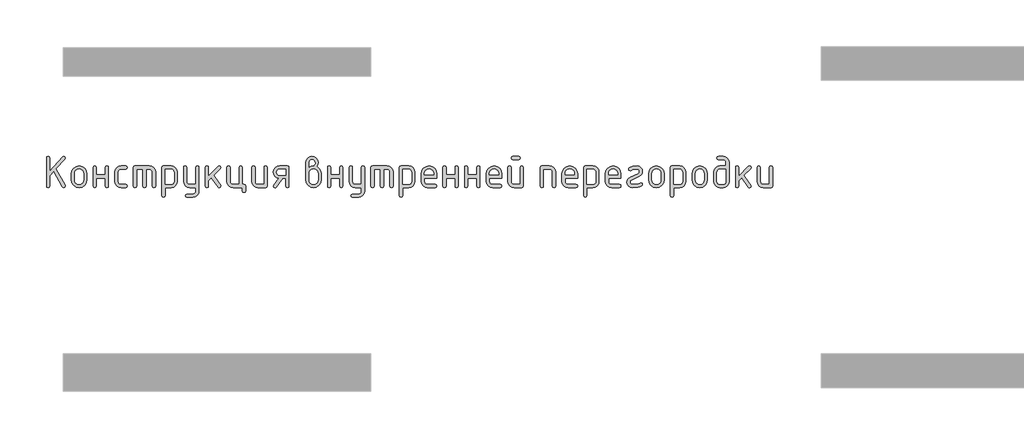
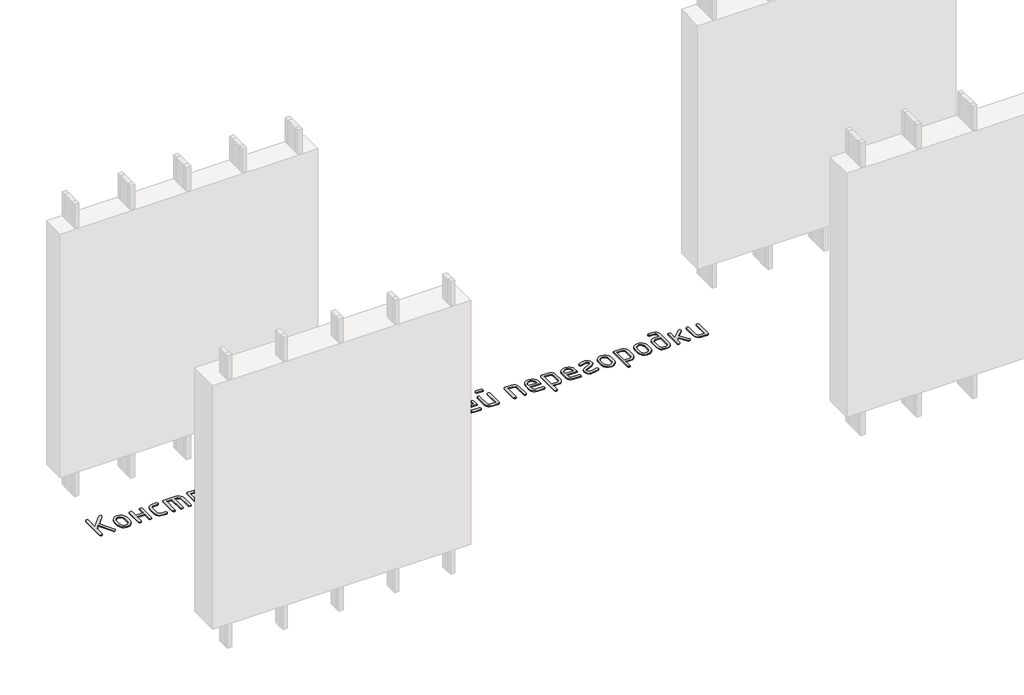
# One storey, part 42 of 42: 1 proxy.
"""IFC4 building model written with IfcOpenShell, lengths in millimetres."""

from ifc_helpers import new_model, si_unit, origin, origin_with_axes, place, context, project, spatial, polyline, outline, extrude, element, save

model = new_model("IFC4")

# Units and contexts
model_context = context("Model", 3, world=origin())
ifc_project = project(units=[si_unit("LENGTHUNIT", "METRE", prefix="MILLI")], contexts=[model_context])

# Site, building, storey
site = spatial("IfcSite", under=ifc_project)
building = spatial("IfcBuilding", under=site)
storey = spatial("IfcBuildingStorey", under=building, Name="Этаж 01", Elevation=0.0)

# Proxy
placement = place(None, origin())
element("IfcBuildingElementProxy", 1, Name="300 мм GOST Common", ObjectType="300 мм GOST Common", at=placement, inside=storey, context=model_context, shape_type="SweptSolid", body=[
    extrude(outline(polyline([(1969.9036155, -29064.8902367), (1930.6823287, -29108.3080398), (1930.6823287, -29208.9437284), (1926.8086214, -29220.3832703), (1915.1874994, -29224.196451), (1903.5663774, -29220.3832703), (1899.69267, -29208.9437284), (1899.69267, -28934.7175298), (1903.5663774, -28923.2779878), (1915.1874994, -28919.4648071), (1926.8086214, -28923.2779878), (1930.6823287, -28934.7175298), (1930.6823287, -29062.7919786), (2055.5286881, -28924.549048), (2067.0691079, -28919.4648071), (2078.3875965, -28923.2779878), (2082.1604261, -28934.7175298), (2078.044612, -28945.1281182), (1991.5318148, -29040.9216726), (2080.1428702, -29201.3577182), (2082.1604261, -29208.9437284), (2077.4796964, -29219.4753702), (2067.0691079, -29224.196451), (2059.0795865, -29222.1788951), (2053.5111322, -29216.1262274), (1969.9036155, -29064.8902367)])), origin_with_axes(), (0.0, 0.0, 1.0), 10.0),
    extrude(outline(polyline([(2142.4449965, -29148.5784557), (2142.4449965, -29088.0517785), (2147.9226608, -29058.9787979), (2164.3556536, -29034.5461959), (2188.5562367, -29017.9618864), (2217.3366717, -29012.4337832), (2246.4197401, -29017.9013597), (2270.5597965, -29034.3040892), (2286.8112093, -29058.6761646), (2292.2283469, -29088.0517785), (2292.2283469, -29148.5784557), (2286.7506826, -29177.6514363), (2270.3176897, -29202.0840383), (2246.1171067, -29218.6683478), (2217.3366717, -29224.196451), (2188.5562367, -29218.6683478), (2164.3556536, -29202.0840383), (2147.9226608, -29177.6514363), (2142.4449965, -29148.5784557)]), holes=[polyline([(2261.2386882, -29147.6907311), (2261.2386882, -29087.0833517), (2258.0206865, -29069.6516687), (2248.3666815, -29054.9638617), (2234.1731757, -29044.97696), (2217.3366717, -29041.6479927), (2200.5001677, -29044.97696), (2186.3066619, -29054.9638617), (2176.6526569, -29069.6516687), (2173.4346552, -29087.0833517), (2173.4346552, -29147.6907311), (2176.6223935, -29165.2838186), (2186.1856085, -29179.9716256), (2200.348851, -29189.8980006), (2217.3366717, -29193.2067923), (2234.1731757, -29189.8778251), (2248.3666815, -29179.8909233), (2258.0206865, -29165.1829408), (2261.2386882, -29147.6907311)])]), origin_with_axes(), (0.0, 0.0, 1.0), 10.0),
    extrude(outline(polyline([(2385.197323, -29131.2274749), (2385.197323, -29208.7016216), (2381.3236156, -29220.3227437), (2369.7024936, -29224.196451), (2358.0813716, -29220.4236215), (2354.2076643, -29209.1051328), (2354.2076643, -29027.5251014), (2358.0813716, -29016.2066128), (2369.7024936, -29012.4337832), (2381.3236156, -29016.0855594), (2385.197323, -29027.040888), (2385.197323, -29100.2378162), (2473.001356, -29100.2378162), (2473.001356, -29027.040888), (2476.8750633, -29016.0855594), (2488.4961853, -29012.4337832), (2500.1173073, -29016.2066128), (2503.9910147, -29027.5251014), (2503.9910147, -29209.1051328), (2500.1173073, -29220.4236215), (2488.4961853, -29224.196451), (2476.8750633, -29220.3227437), (2473.001356, -29208.7016216), (2473.001356, -29131.2274749), (2385.197323, -29131.2274749)])), origin_with_axes(), (0.0, 0.0, 1.0), 10.0),
    extrude(outline(polyline([(2596.9599907, -29073.3639715), (2596.9599907, -29163.2662627), (2599.1994778, -29174.6755413), (2605.917939, -29184.3698974), (2615.7232607, -29190.9975686), (2627.2233293, -29193.2067923), (2672.7393905, -29193.2067923), (2684.0578792, -29197.0804996), (2687.8307087, -29208.7016216), (2684.0578792, -29220.3227437), (2672.7393905, -29224.196451), (2627.2233293, -29224.196451), (2603.6784519, -29219.8183547), (2583.8862285, -29206.6840657), (2570.4493062, -29187.1743001), (2565.970332, -29163.6697739), (2565.970332, -29072.9604604), (2570.4493062, -29049.4559341), (2583.8862285, -29029.9461685), (2603.6784519, -29016.8118795), (2627.2233293, -29012.4337832), (2672.7393905, -29012.4337832), (2684.0578792, -29016.3074906), (2687.8307087, -29027.9286126), (2684.0578792, -29039.5497346), (2672.7393905, -29043.4234419), (2627.2233293, -29043.4234419), (2615.571944, -29045.6124901), (2605.7968856, -29052.1796345), (2599.1692145, -29061.8538151), (2596.9599907, -29073.3639715)])), origin_with_axes(), (0.0, 0.0, 1.0), 10.0),
    extrude(outline(polyline([(2762.2381705, -29012.4337832), (2901.6916346, -29012.4337832), (2925.5794965, -29016.8421429), (2945.5936511, -29030.0672218), (2959.1516268, -29049.6072508), (2963.670952, -29072.9604604), (2963.670952, -29209.1051328), (2959.7972447, -29220.4236215), (2948.1761227, -29224.196451), (2936.5550007, -29220.4236215), (2932.6812933, -29209.1051328), (2932.6812933, -29073.525376), (2930.451894, -29061.7932884), (2923.7636962, -29052.0989323), (2913.7868823, -29045.5923145), (2901.6916346, -29043.4234419), (2870.7019759, -29043.4234419), (2870.7019759, -29209.1051328), (2866.8282686, -29220.4236215), (2855.2071466, -29224.196451), (2843.5860246, -29220.4236215), (2839.7123172, -29209.1051328), (2839.7123172, -29043.4234419), (2777.7329998, -29043.4234419), (2777.7329998, -29209.1051328), (2773.8592925, -29220.4236215), (2762.2381705, -29224.196451), (2750.6170485, -29220.4236215), (2746.7433411, -29209.1051328), (2746.7433411, -29027.5251014), (2750.6170485, -29016.2066128), (2762.2381705, -29012.4337832)])), origin_with_axes(), (0.0, 0.0, 1.0), 10.0),
    extrude(outline(polyline([(3025.6502694, -29027.6865059), (3029.4029234, -29016.2469639), (3040.6608854, -29012.4337832), (3115.5525605, -29012.4337832), (3138.774629, -29016.8118795), (3158.082639, -29029.9461685), (3171.0958746, -29049.4559341), (3175.4336198, -29072.9604604), (3175.4336198, -29163.6697739), (3171.1261379, -29187.0229835), (3158.2036924, -29206.5630124), (3139.0469991, -29219.7880913), (3116.036774, -29224.196451), (3056.6399281, -29224.196451), (3056.6399281, -29301.6705977), (3052.7662208, -29313.2917198), (3041.1450988, -29317.1654271), (3029.5239768, -29313.3522464), (3025.6502694, -29301.9127045), (3025.6502694, -29027.6865059)]), holes=[polyline([(3056.6399281, -29043.4234419), (3056.6399281, -29193.2067923), (3115.1490494, -29193.2067923), (3126.4271869, -29191.0177441), (3135.8895241, -29184.4505997), (3142.3053518, -29174.7764191), (3144.4439611, -29163.2662627), (3144.4439611, -29073.3639715), (3142.3356152, -29061.7024984), (3136.0105774, -29052.0585812), (3126.5785036, -29045.5822267), (3115.1490494, -29043.4234419), (3056.6399281, -29043.4234419)])]), origin_with_axes(), (0.0, 0.0, 1.0), 10.0),
    extrude(outline(polyline([(3356.2066289, -29255.6703231), (3356.2066289, -29224.196451), (3296.809783, -29224.196451), (3273.7995579, -29219.7880913), (3254.6428646, -29206.5630124), (3241.7204191, -29187.0229835), (3237.4129372, -29163.6697739), (3237.4129372, -29027.5251014), (3241.2866445, -29016.2066128), (3252.9077665, -29012.4337832), (3264.5288886, -29016.2066128), (3268.4025959, -29027.5251014), (3268.4025959, -29163.1048582), (3270.5613807, -29174.5343124), (3277.0377352, -29184.2891952), (3286.5202479, -29190.977393), (3297.6975076, -29193.2067923), (3356.2066289, -29193.2067923), (3356.2066289, -29027.5251014), (3360.0803362, -29016.2066128), (3371.7014582, -29012.4337832), (3383.3225802, -29016.2469639), (3387.1962876, -29027.6865059), (3387.1962876, -29256.2352388), (3382.9493324, -29279.6893262), (3370.2084669, -29299.370584), (3351.2737047, -29312.7167163), (3328.4450596, -29317.1654271), (3268.4025959, -29317.1654271), (3257.0235806, -29313.2917198), (3253.2305755, -29301.6705977), (3257.830603, -29290.8564981), (3268.4025959, -29286.1757684), (3326.9117171, -29286.1757684), (3338.3411713, -29284.0068958), (3347.7732452, -29277.500278), (3354.098283, -29267.7050441), (3356.2066289, -29255.6703231)])), origin_with_axes(), (0.0, 0.0, 1.0), 10.0),
    extrude(outline(polyline([(3480.1652637, -29111.8589382), (3575.3939024, -29016.791704), (3586.208002, -29012.4337832), (3597.5870173, -29016.2066128), (3601.3800224, -29027.5251014), (3596.779995, -29038.0970943), (3530.2006501, -29104.595737), (3598.3940397, -29200.3892913), (3601.3800224, -29209.2665373), (3597.5870173, -29220.4639726), (3586.208002, -29224.196451), (3579.0658541, -29222.5824063), (3573.6184532, -29217.7402721), (3508.4110463, -29126.143234), (3480.1652637, -29154.3890167), (3480.1652637, -29209.0244306), (3476.2915563, -29220.4034459), (3464.6704343, -29224.196451), (3453.0493123, -29220.4236215), (3449.175605, -29209.1051328), (3449.175605, -29027.5251014), (3453.0493123, -29016.2066128), (3464.6704343, -29012.4337832), (3476.2915563, -29016.2066128), (3480.1652637, -29027.5251014), (3480.1652637, -29111.8589382)])), origin_with_axes(), (0.0, 0.0, 1.0), 10.0),
    extrude(outline(polyline([(3826.2164525, -29193.2067923), (3837.8375745, -29197.0804996), (3841.7112818, -29208.7016216), (3841.7112818, -29255.1861097), (3837.8375745, -29266.8072317), (3826.2164525, -29270.680939), (3814.5953305, -29266.8072317), (3810.7216231, -29255.1861097), (3810.7216231, -29224.196451), (3720.819332, -29224.196451), (3697.5972635, -29219.7880913), (3678.2892535, -29206.5630124), (3665.2760179, -29187.0229835), (3660.9382727, -29163.6697739), (3660.9382727, -29027.5251014), (3664.8119801, -29016.2066128), (3676.4331021, -29012.4337832), (3688.0542241, -29016.2066128), (3691.9279314, -29027.5251014), (3691.9279314, -29163.1048582), (3694.0867163, -29174.5343124), (3700.5630707, -29184.2891952), (3710.0455835, -29190.977393), (3721.2228432, -29193.2067923), (3779.7319644, -29193.2067923), (3779.7319644, -29027.5251014), (3783.6056718, -29016.2066128), (3795.2267938, -29012.4337832), (3806.8479158, -29016.2066128), (3810.7216231, -29027.5251014), (3810.7216231, -29193.2067923), (3826.2164525, -29193.2067923)])), origin_with_axes(), (0.0, 0.0, 1.0), 10.0),
    extrude(outline(polyline([(4053.4739496, -29027.5251014), (4053.4739496, -29209.1051328), (4049.7212956, -29220.4236215), (4038.4633337, -29224.196451), (3963.5716585, -29224.196451), (3940.34959, -29219.8183547), (3921.04158, -29206.6840657), (3908.0283444, -29187.1743001), (3903.6905992, -29163.6697739), (3903.6905992, -29027.5251014), (3907.5643066, -29016.2066128), (3919.1854286, -29012.4337832), (3930.8065506, -29016.2066128), (3934.6802579, -29027.5251014), (3934.6802579, -29163.1048582), (3936.8390427, -29174.5343124), (3943.3153972, -29184.2891952), (3952.7979099, -29190.977393), (3963.9751697, -29193.2067923), (4022.4842909, -29193.2067923), (4022.4842909, -29027.5251014), (4026.3579982, -29016.2066128), (4037.9791203, -29012.4337832), (4049.6002423, -29016.2066128), (4053.4739496, -29027.5251014)])), origin_with_axes(), (0.0, 0.0, 1.0), 10.0),
    extrude(outline(polyline([(4167.0219959, -29133.0029241), (4145.6459911, -29126.6980619), (4128.3252737, -29113.2712273), (4116.8554684, -29094.6996252), (4113.0321999, -29072.9604604), (4117.4304718, -29049.4559341), (4130.6252874, -29029.9461685), (4150.1754041, -29016.8118795), (4173.6395793, -29012.4337832), (4249.741788, -29012.4337832), (4261.36291, -29016.2066128), (4265.2366174, -29027.5251014), (4265.2366174, -29209.1051328), (4261.36291, -29220.4236215), (4249.741788, -29224.196451), (4238.120666, -29220.4034459), (4234.2469587, -29209.0244306), (4234.2469587, -29133.325733), (4203.4994067, -29133.325733), (4140.390258, -29217.9823788), (4135.0437348, -29222.642933), (4128.2042203, -29224.196451), (4116.825205, -29220.4236215), (4113.0321999, -29209.1051328), (4116.0181827, -29199.9050779), (4167.0219959, -29133.0029241)]), holes=[polyline([(4143.3762407, -29073.7674827), (4145.6157278, -29085.2675514), (4152.3341889, -29095.0728731), (4162.1395106, -29101.7913342), (4173.6395793, -29104.0308213), (4234.2469587, -29104.0308213), (4234.2469587, -29043.4234419), (4173.6395793, -29043.4234419), (4161.9881939, -29045.6326656), (4152.2131356, -29052.2603368), (4145.5854644, -29062.0555707), (4143.3762407, -29073.7674827)])]), origin_with_axes(), (0.0, 0.0, 1.0), 10.0),
    extrude(outline(polyline([(4535.3470019, -29017.1145129), (4553.8782529, -29028.503616), (4568.1524609, -29045.0778378), (4577.2617258, -29065.1626068), (4580.2981475, -29087.0833517), (4580.2981475, -29148.01354), (4574.8204832, -29177.4597685), (4558.3874904, -29202.0436872), (4534.1869073, -29218.65826), (4505.4064723, -29224.196451), (4476.4747206, -29218.6279967), (4452.3044009, -29201.9226338), (4435.962198, -29177.3084518), (4430.5147971, -29148.01354), (4430.5147971, -28980.3949955), (4434.8424545, -28956.7895914), (4447.8254268, -28937.1385969), (4467.0022956, -28923.8832546), (4489.9116429, -28919.4648071), (4512.921868, -28923.9135179), (4532.0785614, -28937.2596502), (4545.0010069, -28956.9409081), (4549.3084888, -28980.3949955), (4545.8181171, -29001.1152946), (4535.3470019, -29017.1145129)]), holes=[polyline([(4461.5044558, -29027.2022924), (4479.9852679, -29015.8838038), (4496.8520353, -29012.1109743), (4505.9310368, -29009.467976), (4514.2837183, -29001.5389813), (4520.154806, -28991.673133), (4522.1118352, -28981.7669335), (4519.9328748, -28969.9642314), (4513.3959937, -28960.2194364), (4503.6310231, -28953.6825553), (4491.7677944, -28951.5035949), (4480.116409, -28953.7128186), (4470.3413507, -28960.3404898), (4463.7136795, -28970.1155481), (4461.5044558, -28981.7669335), (4461.5044558, -29027.2022924)]), polyline([(4549.3084888, -29147.6907311), (4549.3084888, -29087.0833517), (4546.1207505, -29069.6516687), (4536.5575355, -29054.9638617), (4522.394293, -29044.97696), (4505.4064723, -29041.6479927), (4488.4186516, -29044.97696), (4474.2554091, -29054.9638617), (4464.6921941, -29069.6516687), (4461.5044558, -29087.0833517), (4461.5044558, -29147.6907311), (4464.6921941, -29165.2838186), (4474.2554091, -29179.9716256), (4488.4186516, -29189.8980006), (4505.4064723, -29193.2067923), (4522.394293, -29189.8778251), (4536.5575355, -29179.8909233), (4546.1207505, -29165.1829408), (4549.3084888, -29147.6907311)])]), origin_with_axes(), (0.0, 0.0, 1.0), 10.0),
    extrude(outline(polyline([(4673.2671236, -29131.2274749), (4673.2671236, -29208.7016216), (4669.3934162, -29220.3227437), (4657.7722942, -29224.196451), (4646.1511722, -29220.4236215), (4642.2774649, -29209.1051328), (4642.2774649, -29027.5251014), (4646.1511722, -29016.2066128), (4657.7722942, -29012.4337832), (4669.3934162, -29016.0855594), (4673.2671236, -29027.040888), (4673.2671236, -29100.2378162), (4761.0711566, -29100.2378162), (4761.0711566, -29027.040888), (4764.9448639, -29016.0855594), (4776.5659859, -29012.4337832), (4788.1871079, -29016.2066128), (4792.0608153, -29027.5251014), (4792.0608153, -29209.1051328), (4788.1871079, -29220.4236215), (4776.5659859, -29224.196451), (4764.9448639, -29220.3227437), (4761.0711566, -29208.7016216), (4761.0711566, -29131.2274749), (4673.2671236, -29131.2274749)])), origin_with_axes(), (0.0, 0.0, 1.0), 10.0),
    extrude(outline(polyline([(4972.8338243, -29255.6703231), (4972.8338243, -29224.196451), (4913.4369785, -29224.196451), (4890.4267534, -29219.7880913), (4871.2700601, -29206.5630124), (4858.3476145, -29187.0229835), (4854.0401327, -29163.6697739), (4854.0401327, -29027.5251014), (4857.91384, -29016.2066128), (4869.534962, -29012.4337832), (4881.156084, -29016.2066128), (4885.0297914, -29027.5251014), (4885.0297914, -29163.1048582), (4887.1885762, -29174.5343124), (4893.6649306, -29184.2891952), (4903.1474434, -29190.977393), (4914.3247031, -29193.2067923), (4972.8338243, -29193.2067923), (4972.8338243, -29027.5251014), (4976.7075317, -29016.2066128), (4988.3286537, -29012.4337832), (4999.9497757, -29016.2469639), (5003.823483, -29027.6865059), (5003.823483, -29256.2352388), (4999.5765279, -29279.6893262), (4986.8356623, -29299.370584), (4967.9009002, -29312.7167163), (4945.0722551, -29317.1654271), (4885.0297914, -29317.1654271), (4873.6507761, -29313.2917198), (4869.857771, -29301.6705977), (4874.4577984, -29290.8564981), (4885.0297914, -29286.1757684), (4943.5389126, -29286.1757684), (4954.9683668, -29284.0068958), (4964.4004407, -29277.500278), (4970.7254784, -29267.7050441), (4972.8338243, -29255.6703231)])), origin_with_axes(), (0.0, 0.0, 1.0), 10.0),
    extrude(outline(polyline([(5081.2976298, -29012.4337832), (5220.7510939, -29012.4337832), (5244.6389558, -29016.8421429), (5264.6531104, -29030.0672218), (5278.2110861, -29049.6072508), (5282.7304113, -29072.9604604), (5282.7304113, -29209.1051328), (5278.856704, -29220.4236215), (5267.235582, -29224.196451), (5255.61446, -29220.4236215), (5251.7407526, -29209.1051328), (5251.7407526, -29073.525376), (5249.5113534, -29061.7932884), (5242.8231555, -29052.0989323), (5232.8463416, -29045.5923145), (5220.7510939, -29043.4234419), (5189.7614352, -29043.4234419), (5189.7614352, -29209.1051328), (5185.8877279, -29220.4236215), (5174.2666059, -29224.196451), (5162.6454839, -29220.4236215), (5158.7717765, -29209.1051328), (5158.7717765, -29043.4234419), (5096.7924591, -29043.4234419), (5096.7924591, -29209.1051328), (5092.9187518, -29220.4236215), (5081.2976298, -29224.196451), (5069.6765078, -29220.4236215), (5065.8028004, -29209.1051328), (5065.8028004, -29027.5251014), (5069.6765078, -29016.2066128), (5081.2976298, -29012.4337832)])), origin_with_axes(), (0.0, 0.0, 1.0), 10.0),
    extrude(outline(polyline([(5344.7097287, -29027.6865059), (5348.4623827, -29016.2469639), (5359.7203447, -29012.4337832), (5434.6120198, -29012.4337832), (5457.8340883, -29016.8118795), (5477.1420983, -29029.9461685), (5490.1553339, -29049.4559341), (5494.4930791, -29072.9604604), (5494.4930791, -29163.6697739), (5490.1855972, -29187.0229835), (5477.2631517, -29206.5630124), (5458.1064584, -29219.7880913), (5435.0962333, -29224.196451), (5375.6993874, -29224.196451), (5375.6993874, -29301.6705977), (5371.8256801, -29313.2917198), (5360.2045581, -29317.1654271), (5348.5834361, -29313.3522464), (5344.7097287, -29301.9127045), (5344.7097287, -29027.6865059)]), holes=[polyline([(5375.6993874, -29043.4234419), (5375.6993874, -29193.2067923), (5434.2085087, -29193.2067923), (5445.4866462, -29191.0177441), (5454.9489834, -29184.4505997), (5461.3648111, -29174.7764191), (5463.5034204, -29163.2662627), (5463.5034204, -29073.3639715), (5461.3950745, -29061.7024984), (5455.0700367, -29052.0585812), (5445.6379629, -29045.5822267), (5434.2085087, -29043.4234419), (5375.6993874, -29043.4234419)])]), origin_with_axes(), (0.0, 0.0, 1.0), 10.0),
    extrude(outline(polyline([(5587.4620552, -29131.2274749), (5587.4620552, -29162.2171336), (5589.7015423, -29174.0097479), (5596.4200034, -29184.0470885), (5606.2253251, -29190.9168663), (5617.7253938, -29193.2067923), (5693.5047936, -29193.2067923), (5704.8838089, -29197.0804996), (5708.676814, -29208.7016216), (5704.8838089, -29220.3227437), (5693.5047936, -29224.196451), (5617.7253938, -29224.196451), (5594.1805164, -29219.8183547), (5574.3882929, -29206.6840657), (5560.9513706, -29187.1743001), (5556.4723965, -29163.6697739), (5556.4723965, -29088.0517785), (5562.0912897, -29058.9787979), (5578.9479693, -29034.5461959), (5603.6731169, -29017.9618864), (5632.8974142, -29012.4337832), (5662.3436426, -29017.8004819), (5686.7661568, -29033.900578), (5703.1991497, -29057.8287911), (5708.676814, -29086.6798405), (5708.676814, -29131.2274749), (5587.4620552, -29131.2274749)]), holes=[polyline([(5632.8974142, -29039.6304368), (5615.4657312, -29042.9594041), (5600.7779242, -29052.9463058), (5590.7910224, -29067.6341128), (5587.4620552, -29085.0657958), (5587.4620552, -29100.2378162), (5678.3327732, -29100.2378162), (5678.3327732, -29085.0657958), (5675.0038059, -29067.6341128), (5665.0169042, -29052.9463058), (5650.3290972, -29042.9594041), (5632.8974142, -29039.6304368)])]), origin_with_axes(), (0.0, 0.0, 1.0), 10.0),
    extrude(outline(polyline([(5799.224723, -29131.2274749), (5799.224723, -29208.7016216), (5795.3510156, -29220.3227437), (5783.7298936, -29224.196451), (5772.1087716, -29220.4236215), (5768.2350643, -29209.1051328), (5768.2350643, -29027.5251014), (5772.1087716, -29016.2066128), (5783.7298936, -29012.4337832), (5795.3510156, -29016.0855594), (5799.224723, -29027.040888), (5799.224723, -29100.2378162), (5887.028756, -29100.2378162), (5887.028756, -29027.040888), (5890.9024633, -29016.0855594), (5902.5235853, -29012.4337832), (5914.1447073, -29016.2066128), (5918.0184147, -29027.5251014), (5918.0184147, -29209.1051328), (5914.1447073, -29220.4236215), (5902.5235853, -29224.196451), (5890.9024633, -29220.3227437), (5887.028756, -29208.7016216), (5887.028756, -29131.2274749), (5799.224723, -29131.2274749)])), origin_with_axes(), (0.0, 0.0, 1.0), 10.0),
    extrude(outline(polyline([(6010.9873908, -29131.2274749), (6010.9873908, -29208.7016216), (6007.1136834, -29220.3227437), (5995.4925614, -29224.196451), (5983.8714394, -29220.4236215), (5979.9977321, -29209.1051328), (5979.9977321, -29027.5251014), (5983.8714394, -29016.2066128), (5995.4925614, -29012.4337832), (6007.1136834, -29016.0855594), (6010.9873908, -29027.040888), (6010.9873908, -29100.2378162), (6098.7914237, -29100.2378162), (6098.7914237, -29027.040888), (6102.6651311, -29016.0855594), (6114.2862531, -29012.4337832), (6125.9073751, -29016.2066128), (6129.7810824, -29027.5251014), (6129.7810824, -29209.1051328), (6125.9073751, -29220.4236215), (6114.2862531, -29224.196451), (6102.6651311, -29220.3227437), (6098.7914237, -29208.7016216), (6098.7914237, -29131.2274749), (6010.9873908, -29131.2274749)])), origin_with_axes(), (0.0, 0.0, 1.0), 10.0),
    extrude(outline(polyline([(6222.7500585, -29131.2274749), (6222.7500585, -29162.2171336), (6224.9895456, -29174.0097479), (6231.7080067, -29184.0470885), (6241.5133284, -29190.9168663), (6253.0133971, -29193.2067923), (6328.7927969, -29193.2067923), (6340.1718122, -29197.0804996), (6343.9648173, -29208.7016216), (6340.1718122, -29220.3227437), (6328.7927969, -29224.196451), (6253.0133971, -29224.196451), (6229.4685197, -29219.8183547), (6209.6762963, -29206.6840657), (6196.2393739, -29187.1743001), (6191.7603998, -29163.6697739), (6191.7603998, -29088.0517785), (6197.379293, -29058.9787979), (6214.2359726, -29034.5461959), (6238.9611202, -29017.9618864), (6268.1854175, -29012.4337832), (6297.6316459, -29017.8004819), (6322.0541602, -29033.900578), (6338.487153, -29057.8287911), (6343.9648173, -29086.6798405), (6343.9648173, -29131.2274749), (6222.7500585, -29131.2274749)]), holes=[polyline([(6268.1854175, -29039.6304368), (6250.7537345, -29042.9594041), (6236.0659275, -29052.9463058), (6226.0790258, -29067.6341128), (6222.7500585, -29085.0657958), (6222.7500585, -29100.2378162), (6313.6207765, -29100.2378162), (6313.6207765, -29085.0657958), (6310.2918092, -29067.6341128), (6300.3049075, -29052.9463058), (6285.6171005, -29042.9594041), (6268.1854175, -29039.6304368)])]), origin_with_axes(), (0.0, 0.0, 1.0), 10.0),
    extrude(outline(polyline([(6507.6289523, -28950.4544658), (6449.2005333, -28950.4544658), (6438.1846781, -28946.5807585), (6434.5127263, -28934.9596365), (6438.1846781, -28923.3385145), (6449.2005333, -28919.4648071), (6507.6289523, -28919.4648071), (6518.6448075, -28923.3385145), (6522.3167593, -28934.9596365), (6518.6448075, -28946.5807585), (6507.6289523, -28950.4544658)])), origin_with_axes(), (0.0, 0.0, 1.0), 10.0),
    extrude(outline(polyline([(6553.306418, -29026.4759723), (6553.306418, -29208.7016216), (6549.553764, -29220.3227437), (6538.2958021, -29224.196451), (6463.4041269, -29224.196451), (6440.1820584, -29219.7174769), (6420.8740484, -29206.2805546), (6407.8608128, -29186.4681556), (6403.5230676, -29162.8627515), (6403.5230676, -29026.4759723), (6407.3967749, -29015.1574837), (6419.017897, -29011.3846542), (6430.639019, -29015.1574837), (6434.5127263, -29026.4759723), (6434.5127263, -29162.8627515), (6436.6715111, -29174.4233468), (6443.1478656, -29184.2488441), (6452.6303783, -29190.9673052), (6463.807638, -29193.2067923), (6522.3167593, -29193.2067923), (6522.3167593, -29026.4759723), (6526.1904666, -29015.1574837), (6537.8115886, -29011.3846542), (6549.4327107, -29015.1574837), (6553.306418, -29026.4759723)])), origin_with_axes(), (0.0, 0.0, 1.0), 10.0),
    extrude(outline(polyline([(6718.5845977, -29209.1051328), (6718.5845977, -29027.5251014), (6722.3372517, -29016.2066128), (6733.5952136, -29012.4337832), (6808.4868888, -29012.4337832), (6831.5576406, -29016.8421429), (6850.895914, -29030.0672218), (6863.9999396, -29049.6072508), (6868.3679481, -29072.9604604), (6868.3679481, -29209.1051328), (6864.4942408, -29220.4236215), (6852.8731187, -29224.196451), (6841.2519967, -29220.4236215), (6837.3782894, -29209.1051328), (6837.3782894, -29073.525376), (6835.2699435, -29061.7932884), (6828.9449057, -29052.0989323), (6819.5128319, -29045.5923145), (6808.0833777, -29043.4234419), (6749.5742564, -29043.4234419), (6749.5742564, -29209.1051328), (6745.7005491, -29220.4236215), (6734.0794271, -29224.196451), (6722.4583051, -29220.4236215), (6718.5845977, -29209.1051328)])), origin_with_axes(), (0.0, 0.0, 1.0), 10.0),
    extrude(outline(polyline([(6961.3369242, -29131.2274749), (6961.3369242, -29162.2171336), (6963.5764112, -29174.0097479), (6970.2948724, -29184.0470885), (6980.1001941, -29190.9168663), (6991.6002628, -29193.2067923), (7067.3796626, -29193.2067923), (7078.7586779, -29197.0804996), (7082.551683, -29208.7016216), (7078.7586779, -29220.3227437), (7067.3796626, -29224.196451), (6991.6002628, -29224.196451), (6968.0553854, -29219.8183547), (6948.2631619, -29206.6840657), (6934.8262396, -29187.1743001), (6930.3472655, -29163.6697739), (6930.3472655, -29088.0517785), (6935.9661587, -29058.9787979), (6952.8228383, -29034.5461959), (6977.5479859, -29017.9618864), (7006.7722832, -29012.4337832), (7036.2185116, -29017.8004819), (7060.6410258, -29033.900578), (7077.0740187, -29057.8287911), (7082.551683, -29086.6798405), (7082.551683, -29131.2274749), (6961.3369242, -29131.2274749)]), holes=[polyline([(7006.7722832, -29039.6304368), (6989.3406002, -29042.9594041), (6974.6527932, -29052.9463058), (6964.6658914, -29067.6341128), (6961.3369242, -29085.0657958), (6961.3369242, -29100.2378162), (7052.2076421, -29100.2378162), (7052.2076421, -29085.0657958), (7048.8786749, -29067.6341128), (7038.8917732, -29052.9463058), (7024.2039662, -29042.9594041), (7006.7722832, -29039.6304368)])]), origin_with_axes(), (0.0, 0.0, 1.0), 10.0),
    extrude(outline(polyline([(7142.1099333, -29027.6865059), (7145.8625873, -29016.2469639), (7157.1205492, -29012.4337832), (7232.0122244, -29012.4337832), (7255.2342929, -29016.8118795), (7274.5423029, -29029.9461685), (7287.5555385, -29049.4559341), (7291.8932836, -29072.9604604), (7291.8932836, -29163.6697739), (7287.5858018, -29187.0229835), (7274.6633562, -29206.5630124), (7255.5066629, -29219.7880913), (7232.4964378, -29224.196451), (7173.099592, -29224.196451), (7173.099592, -29301.6705977), (7169.2258846, -29313.2917198), (7157.6047626, -29317.1654271), (7145.9836406, -29313.3522464), (7142.1099333, -29301.9127045), (7142.1099333, -29027.6865059)]), holes=[polyline([(7173.099592, -29043.4234419), (7173.099592, -29193.2067923), (7231.6087132, -29193.2067923), (7242.8868507, -29191.0177441), (7252.3491879, -29184.4505997), (7258.7650157, -29174.7764191), (7260.9036249, -29163.2662627), (7260.9036249, -29073.3639715), (7258.795279, -29061.7024984), (7252.4702413, -29052.0585812), (7243.0381674, -29045.5822267), (7231.6087132, -29043.4234419), (7173.099592, -29043.4234419)])]), origin_with_axes(), (0.0, 0.0, 1.0), 10.0),
    extrude(outline(polyline([(7384.8622597, -29131.2274749), (7384.8622597, -29162.2171336), (7387.1017468, -29174.0097479), (7393.820208, -29184.0470885), (7403.6255297, -29190.9168663), (7415.1255983, -29193.2067923), (7490.9049981, -29193.2067923), (7502.2840134, -29197.0804996), (7506.0770185, -29208.7016216), (7502.2840134, -29220.3227437), (7490.9049981, -29224.196451), (7415.1255983, -29224.196451), (7391.5807209, -29219.8183547), (7371.7884975, -29206.6840657), (7358.3515752, -29187.1743001), (7353.872601, -29163.6697739), (7353.872601, -29088.0517785), (7359.4914942, -29058.9787979), (7376.3481738, -29034.5461959), (7401.0733214, -29017.9618864), (7430.2976187, -29012.4337832), (7459.7438472, -29017.8004819), (7484.1663614, -29033.900578), (7500.5993542, -29057.8287911), (7506.0770185, -29086.6798405), (7506.0770185, -29131.2274749), (7384.8622597, -29131.2274749)]), holes=[polyline([(7430.2976187, -29039.6304368), (7412.8659357, -29042.9594041), (7398.1781287, -29052.9463058), (7388.191227, -29067.6341128), (7384.8622597, -29085.0657958), (7384.8622597, -29100.2378162), (7475.7329777, -29100.2378162), (7475.7329777, -29085.0657958), (7472.4040105, -29067.6341128), (7462.4171087, -29052.9463058), (7447.7293017, -29042.9594041), (7430.2976187, -29039.6304368)])]), origin_with_axes(), (0.0, 0.0, 1.0), 10.0),
    extrude(outline(polyline([(7701.2957279, -29178.0347719), (7712.6747432, -29181.827777), (7716.4677483, -29193.2067923), (7714.3493146, -29201.1559626), (7707.9940135, -29207.0875769), (7691.4147478, -29214.5727093), (7670.8911604, -29219.9192325), (7618.0110201, -29224.196451), (7597.5530032, -29220.3429192), (7580.403778, -29208.7823239), (7568.782656, -29191.754152), (7564.9089487, -29171.4978908), (7566.8054512, -29156.1089831), (7572.4949589, -29143.0301769), (7581.9774717, -29132.2614723), (7595.2529895, -29123.8028692), (7673.7762653, -29086.1149249), (7683.0368469, -29078.1052279), (7686.1237075, -29066.0200681), (7684.4592238, -29057.3445777), (7679.465773, -29050.0410253), (7672.1319573, -29045.0778378), (7663.4463791, -29043.4234419), (7625.1128169, -29046.6515314), (7602.3547863, -29056.7393109), (7595.2529895, -29058.5954623), (7584.6809966, -29053.9954349), (7580.0809691, -29043.4234419), (7582.098525, -29035.776905), (7588.1511927, -29029.784764), (7620.2908583, -29016.7715284), (7663.4463791, -29012.4337832), (7683.8438693, -29016.287315), (7700.9729189, -29027.8479103), (7712.5940409, -29044.8760822), (7716.4677483, -29065.1323435), (7714.5561141, -29080.5212511), (7708.8212114, -29093.6000573), (7699.2630403, -29104.3687619), (7685.8816008, -29112.827365), (7608.0846451, -29150.0310959), (7598.4609034, -29158.2828996), (7595.2529895, -29170.6101662), (7596.9174731, -29179.2856566), (7601.910924, -29186.5892089), (7609.2649153, -29191.5523965), (7618.0110201, -29193.2067923), (7659.5524962, -29189.696245), (7695.5658691, -29179.1646032), (7701.2957279, -29178.0347719)])), origin_with_axes(), (0.0, 0.0, 1.0), 10.0),
    extrude(outline(polyline([(7777.3979366, -29148.5784557), (7777.3979366, -29088.0517785), (7782.8756009, -29058.9787979), (7799.3085937, -29034.5461959), (7823.5091768, -29017.9618864), (7852.2896118, -29012.4337832), (7881.3726802, -29017.9013597), (7905.5127366, -29034.3040892), (7921.7641494, -29058.6761646), (7927.181287, -29088.0517785), (7927.181287, -29148.5784557), (7921.7036227, -29177.6514363), (7905.2706298, -29202.0840383), (7881.0700468, -29218.6683478), (7852.2896118, -29224.196451), (7823.5091768, -29218.6683478), (7799.3085937, -29202.0840383), (7782.8756009, -29177.6514363), (7777.3979366, -29148.5784557)]), holes=[polyline([(7896.1916283, -29147.6907311), (7896.1916283, -29087.0833517), (7892.9736266, -29069.6516687), (7883.3196216, -29054.9638617), (7869.1261158, -29044.97696), (7852.2896118, -29041.6479927), (7835.4531078, -29044.97696), (7821.259602, -29054.9638617), (7811.605597, -29069.6516687), (7808.3875953, -29087.0833517), (7808.3875953, -29147.6907311), (7811.5753336, -29165.2838186), (7821.1385486, -29179.9716256), (7835.3017911, -29189.8980006), (7852.2896118, -29193.2067923), (7869.1261158, -29189.8778251), (7883.3196216, -29179.8909233), (7892.9736266, -29165.1829408), (7896.1916283, -29147.6907311)])]), origin_with_axes(), (0.0, 0.0, 1.0), 10.0),
    extrude(outline(polyline([(7989.1606044, -29027.6865059), (7992.9132584, -29016.2469639), (8004.1712203, -29012.4337832), (8079.0628955, -29012.4337832), (8102.284964, -29016.8118795), (8121.592974, -29029.9461685), (8134.6062096, -29049.4559341), (8138.9439548, -29072.9604604), (8138.9439548, -29163.6697739), (8134.6364729, -29187.0229835), (8121.7140273, -29206.5630124), (8102.557334, -29219.7880913), (8079.5471089, -29224.196451), (8020.1502631, -29224.196451), (8020.1502631, -29301.6705977), (8016.2765557, -29313.2917198), (8004.6554337, -29317.1654271), (7993.0343117, -29313.3522464), (7989.1606044, -29301.9127045), (7989.1606044, -29027.6865059)]), holes=[polyline([(8020.1502631, -29043.4234419), (8020.1502631, -29193.2067923), (8078.6593843, -29193.2067923), (8089.9375218, -29191.0177441), (8099.399859, -29184.4505997), (8105.8156868, -29174.7764191), (8107.9542961, -29163.2662627), (8107.9542961, -29073.3639715), (8105.8459501, -29061.7024984), (8099.5209124, -29052.0585812), (8090.0888385, -29045.5822267), (8078.6593843, -29043.4234419), (8020.1502631, -29043.4234419)])]), origin_with_axes(), (0.0, 0.0, 1.0), 10.0),
    extrude(outline(polyline([(8200.9232722, -29148.5784557), (8200.9232722, -29088.0517785), (8206.4009364, -29058.9787979), (8222.8339293, -29034.5461959), (8247.0345124, -29017.9618864), (8275.8149473, -29012.4337832), (8304.8980157, -29017.9013597), (8329.0380721, -29034.3040892), (8345.2894849, -29058.6761646), (8350.7066225, -29088.0517785), (8350.7066225, -29148.5784557), (8345.2289582, -29177.6514363), (8328.7959654, -29202.0840383), (8304.5953823, -29218.6683478), (8275.8149473, -29224.196451), (8247.0345124, -29218.6683478), (8222.8339293, -29202.0840383), (8206.4009364, -29177.6514363), (8200.9232722, -29148.5784557)]), holes=[polyline([(8319.7169638, -29147.6907311), (8319.7169638, -29087.0833517), (8316.4989622, -29069.6516687), (8306.8449572, -29054.9638617), (8292.6514514, -29044.97696), (8275.8149473, -29041.6479927), (8258.9784433, -29044.97696), (8244.7849375, -29054.9638617), (8235.1309325, -29069.6516687), (8231.9129309, -29087.0833517), (8231.9129309, -29147.6907311), (8235.1006692, -29165.2838186), (8244.6638842, -29179.9716256), (8258.8271266, -29189.8980006), (8275.8149473, -29193.2067923), (8292.6514514, -29189.8778251), (8306.8449572, -29179.8909233), (8316.4989622, -29165.1829408), (8319.7169638, -29147.6907311)])]), origin_with_axes(), (0.0, 0.0, 1.0), 10.0),
    extrude(outline(polyline([(8562.4692903, -28980.3949955), (8562.4692903, -29163.2662627), (8558.1012818, -29186.8716668), (8544.9972562, -29206.5226613), (8525.6589828, -29219.7780036), (8502.588231, -29224.196451), (8472.5669992, -29224.196451), (8449.3449307, -29219.7880913), (8430.0369207, -29206.5630124), (8417.0236851, -29187.0229835), (8412.6859399, -29163.6697739), (8412.6859399, -29072.9604604), (8417.0135973, -29049.4559341), (8429.9965696, -29029.9461685), (8449.1734385, -29016.8118795), (8472.0827858, -29012.4337832), (8531.4796316, -29012.4337832), (8531.4796316, -28981.4441245), (8529.3712857, -28969.3488769), (8523.0462479, -28959.3720629), (8513.6141741, -28952.6838651), (8502.1847199, -28950.4544658), (8458.2827034, -28950.4544658), (8447.3273748, -28946.5807585), (8443.6755986, -28934.9596365), (8447.3879015, -28923.3385145), (8458.5248101, -28919.4648071), (8503.0724445, -28919.4648071), (8526.0826696, -28923.9135179), (8545.2393629, -28937.2596502), (8558.1618084, -28956.9409081), (8562.4692903, -28980.3949955)]), holes=[polyline([(8531.4796316, -29163.2662627), (8531.4796316, -29043.4234419), (8472.9705104, -29043.4234419), (8461.6923729, -29045.6124901), (8452.2300357, -29052.1796345), (8445.8142079, -29061.8538151), (8443.6755986, -29073.3639715), (8443.6755986, -29163.2662627), (8445.8343834, -29174.6755413), (8452.3107379, -29184.3698974), (8461.7932507, -29190.9975686), (8472.9705104, -29193.2067923), (8502.1847199, -29193.2067923), (8513.4628574, -29191.0177441), (8522.9251946, -29184.4505997), (8529.3410223, -29174.7764191), (8531.4796316, -29163.2662627)])]), origin_with_axes(), (0.0, 0.0, 1.0), 10.0),
    extrude(outline(polyline([(8655.4382664, -29111.8589382), (8750.6669051, -29016.791704), (8761.4810048, -29012.4337832), (8772.8600201, -29016.2066128), (8776.6530252, -29027.5251014), (8772.0529977, -29038.0970943), (8705.4736528, -29104.595737), (8773.6670424, -29200.3892913), (8776.6530252, -29209.2665373), (8772.8600201, -29220.4639726), (8761.4810048, -29224.196451), (8754.3388569, -29222.5824063), (8748.8914559, -29217.7402721), (8683.6840491, -29126.143234), (8655.4382664, -29154.3890167), (8655.4382664, -29209.0244306), (8651.5645591, -29220.4034459), (8639.9434371, -29224.196451), (8628.322315, -29220.4236215), (8624.4486077, -29209.1051328), (8624.4486077, -29027.5251014), (8628.322315, -29016.2066128), (8639.9434371, -29012.4337832), (8651.5645591, -29016.2066128), (8655.4382664, -29027.5251014), (8655.4382664, -29111.8589382)])), origin_with_axes(), (0.0, 0.0, 1.0), 10.0),
    extrude(outline(polyline([(8985.9946259, -29027.5251014), (8985.9946259, -29209.1051328), (8982.2419719, -29220.4236215), (8970.9840099, -29224.196451), (8896.0923347, -29224.196451), (8872.8702663, -29219.8183547), (8853.5622563, -29206.6840657), (8840.5490207, -29187.1743001), (8836.2112755, -29163.6697739), (8836.2112755, -29027.5251014), (8840.0849828, -29016.2066128), (8851.7061048, -29012.4337832), (8863.3272268, -29016.2066128), (8867.2009342, -29027.5251014), (8867.2009342, -29163.1048582), (8869.359719, -29174.5343124), (8875.8360735, -29184.2891952), (8885.3185862, -29190.977393), (8896.4958459, -29193.2067923), (8955.0049672, -29193.2067923), (8955.0049672, -29027.5251014), (8958.8786745, -29016.2066128), (8970.4997965, -29012.4337832), (8982.1209185, -29016.2066128), (8985.9946259, -29027.5251014)])), origin_with_axes(), (0.0, 0.0, 1.0), 10.0),
])

save(model, "model.ifc")
